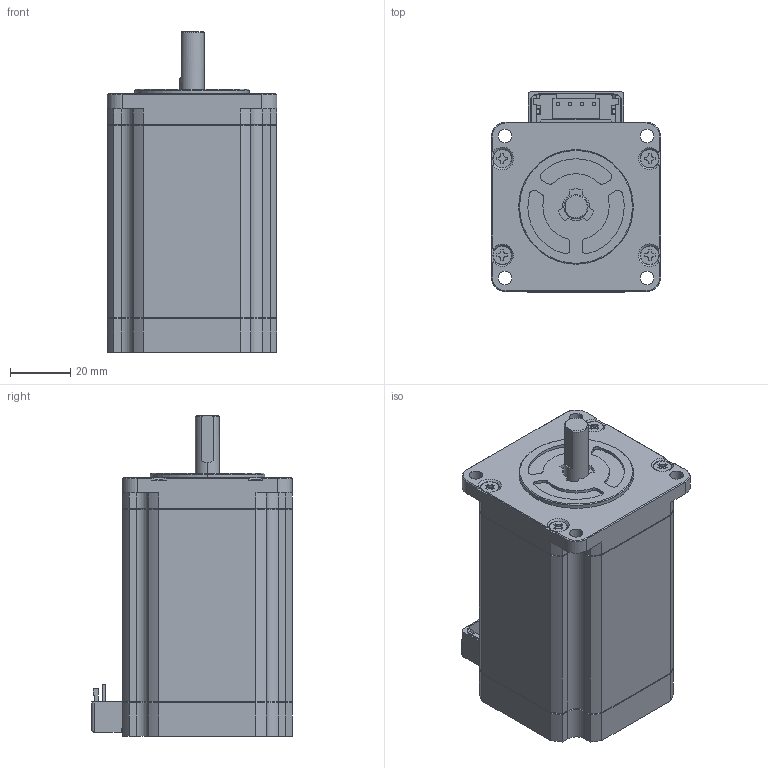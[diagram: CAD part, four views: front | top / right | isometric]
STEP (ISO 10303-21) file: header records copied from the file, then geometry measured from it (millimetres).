
FILE_DESCRIPTION (( 'STEP AP203' ), '1' );
FILE_NAME ('SM2564C10B41.STEP', '2021-05-07T07:29:52', ( '' ), ( '' ), 'SwSTEP 2.0', 'SolidWorks 2019', '' );
FILE_SCHEMA (( 'CONFIG_CONTROL_DESIGN' ));
Length unit declared in the file: millimetre
Products named in the file (10): Copy of SUBSTRATE^Copy of TERMINAL_01124161; Copy of TERMINAL^01124161; Copy of CONNECTOR^Copy of TERMINAL_01124161; SM2564C10B41; Copy of SCREW^01124161; Copy of STATOR^01124161; Copy of REAR COVER^01124161; Copy of OUTPUT SHAFT^01124161; Copy of FRONT COVER^01124161; Copy of INSULATOR_REAR^01124161_コネクタタイプ（10.1L）
Assembly tree (12 placements, depth 3):
  SM2564C10B41
    Copy of FRONT COVER^01124161
    Copy of STATOR^01124161
    Copy of INSULATOR_REAR^01124161_コネクタタイプ（10.1L）
    Copy of TERMINAL^01124161
      Copy of SUBSTRATE^Copy of TERMINAL_01124161
      Copy of CONNECTOR^Copy of TERMINAL_01124161
    Copy of REAR COVER^01124161
    Copy of OUTPUT SHAFT^01124161
    Copy of SCREW^01124161  x4
Bounding box: 56.4 x 66.6 x 106.4 mm (x, y, z)
Volume: 265082.8 mm3; surface area: 46670.4 mm2
Topology: 11 solids, 11 shells, 598 faces, 1559 edges, 1005 vertices
Faces by surface type: plane 382, cylinder 155, cone 61
Entity records: 17358 total; most frequent: CARTESIAN_POINT 2965, ORIENTED_EDGE 2770, DIRECTION 2758, EDGE_CURVE 1385, LINE 1006, VECTOR 1006, VERTEX_POINT 891, AXIS2_PLACEMENT_3D 876
